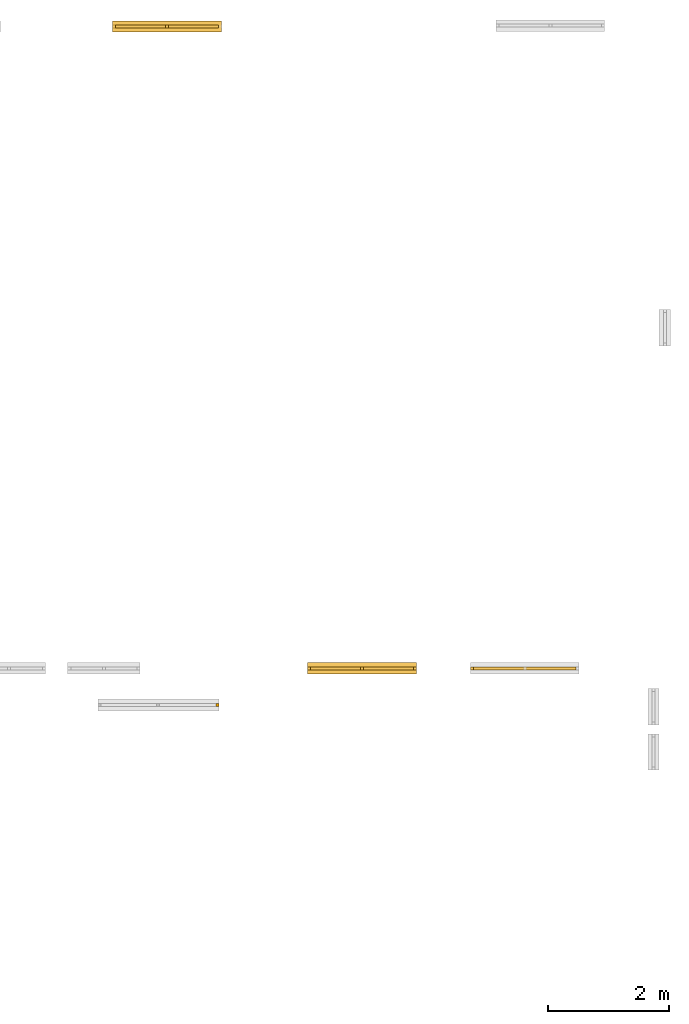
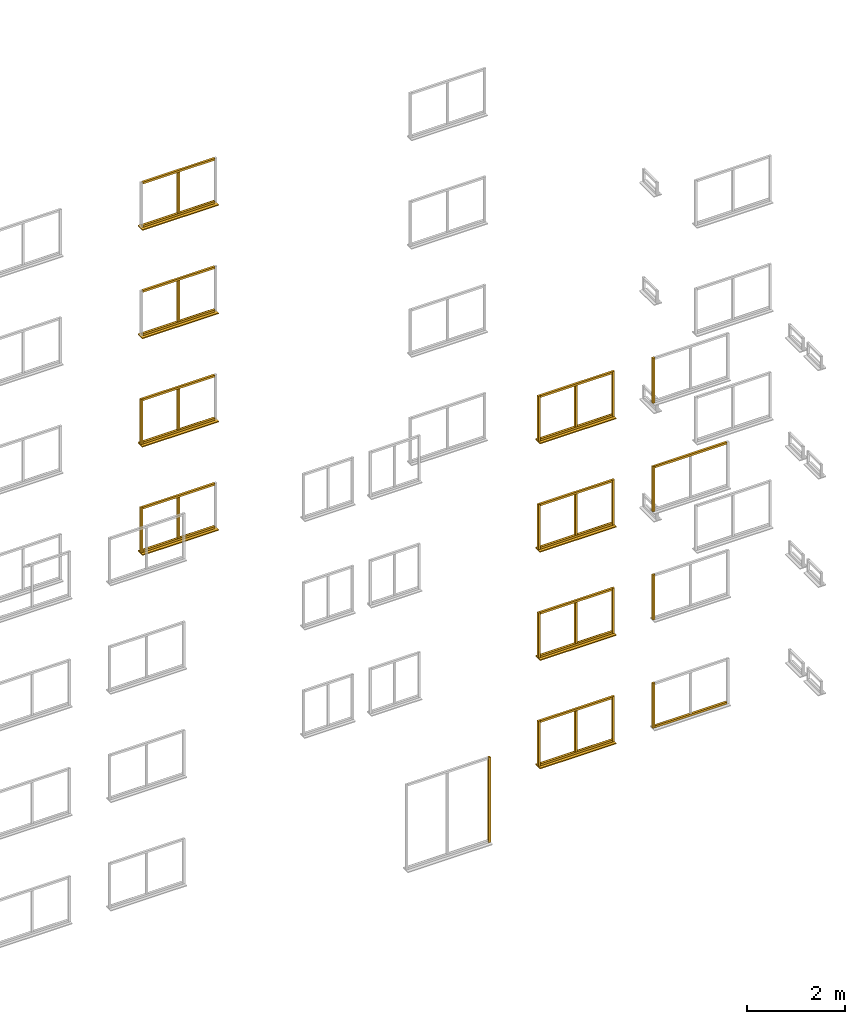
# Not in any storey, part 11 of 22: 49 windows.
"""IFC2X3 model written with IfcOpenShell, lengths in metres."""

import ifcopenshell
import ifcopenshell.guid

model = None  # the IFC model being written
_history = None  # IfcOwnerHistory: only IFC2X3 demands one
_inside = {}  # id of a spatial element -> (the spatial element, [elements in it])
_under = {}  # id of a project, library or spatial element -> (it, [spatial elements below it])
_declared = {}  # id of a project -> (the project, [libraries it declares])
_typed = {}  # id of a type object -> (the type object, [elements of that type])
_made_of = {}  # id of a material, layer set ... -> (it, [elements and type objects made of it])


def new_model(schema):
    """Start an empty IFC model of exactly this schema.

    Asked for "IFC4X3", IfcOpenShell would pick the latest addendum, in which some entities
    have other attributes; the version numbers below select the first issue.
    IFC2X3 requires an IfcOwnerHistory on every rooted entity: one is made here for all.
    """
    global model, _history
    if schema == "IFC4X3":
        model = ifcopenshell.file(schema_version=(4, 3, 0, 0))
    else:
        model = ifcopenshell.file(schema=schema)
    _inside.clear()
    _under.clear()
    _declared.clear()
    _typed.clear()
    _made_of.clear()
    _history = None
    if model.schema == "IFC2X3":
        org = make("IfcOrganization", Name="unknown")
        user = make(
            "IfcPersonAndOrganization",
            ThePerson=make("IfcPerson", FamilyName="unknown"),
            TheOrganization=org,
        )
        app = make(
            "IfcApplication",
            ApplicationDeveloper=org,
            Version="unknown",
            ApplicationFullName="unknown",
            ApplicationIdentifier="unknown",
        )
        _history = make(
            "IfcOwnerHistory",
            OwningUser=user,
            OwningApplication=app,
            ChangeAction="ADDED",
            CreationDate=0,
        )
    return model


def make(cls, **values):
    """One entity of the class cls with the attributes given. An attribute that is None is left unset."""
    return model.create_entity(
        cls, **{name: value for name, value in values.items() if value is not None}
    )


def rooted(cls, **values):
    """An entity with a GlobalId (a new one), such as an element, a storey or a relation."""
    return make(cls, GlobalId=ifcopenshell.guid.new(), OwnerHistory=_history, **values)


def si_unit(unit_type, name, prefix=None):
    """IfcSIUnit, for example si_unit("LENGTHUNIT", "METRE", prefix="MILLI")."""
    return make("IfcSIUnit", UnitType=unit_type, Prefix=prefix, Name=name)


def assignment(units):
    """IfcUnitAssignment: the units of a project."""
    return None if units is None else make("IfcUnitAssignment", Units=units)


def point(xyz):
    """IfcCartesianPoint."""
    return None if xyz is None else make("IfcCartesianPoint", Coordinates=xyz)


def direction(xyz):
    """IfcDirection."""
    return None if xyz is None else make("IfcDirection", DirectionRatios=xyz)


def frame(location, z_axis=None, x_axis=None):
    """IfcAxis2Placement3D, a coordinate frame: its origin and axes. An axis left out is left unset."""
    return make(
        "IfcAxis2Placement3D",
        Location=point(location),
        Axis=direction(z_axis),
        RefDirection=direction(x_axis),
    )


def origin():
    """The frame at (0, 0, 0) with its axes left unset."""
    return frame((0.0, 0.0, 0.0))


def place(relative_to, where):
    """IfcLocalPlacement: puts the frame where relative to a parent placement (None: the world)."""
    return make(
        "IfcLocalPlacement", PlacementRelTo=relative_to, RelativePlacement=where
    )


def context(
    kind, dimensions, precision=None, world=None, true_north=None, identifier=None
):
    """IfcGeometricRepresentationContext, for example the 3D "Model" context."""
    return make(
        "IfcGeometricRepresentationContext",
        ContextIdentifier=identifier,
        ContextType=kind,
        CoordinateSpaceDimension=dimensions,
        Precision=precision,
        WorldCoordinateSystem=world,
        TrueNorth=true_north,
    )


def project(units=None, contexts=None):
    """IfcProject with its units and contexts."""
    return rooted(
        "IfcProject",
        Name="project",
        RepresentationContexts=contexts,
        UnitsInContext=assignment(units),
    )


def faces_of(points, faces, orient=None, outer=None):
    """IfcFace entities. A face is a list of loops; a loop is a list of indices into points, from 0.

    orient and outer hold one flag for each loop. By default every Orientation is true, the
    first loop of a face is its IfcFaceOuterBound and the others are IfcFaceBound.
    """
    made = []
    for i, loops in enumerate(faces):
        bounds = []
        for j, loop in enumerate(loops):
            is_outer = j == 0 if outer is None else outer[i][j]
            bounds.append(
                make(
                    "IfcFaceOuterBound" if is_outer else "IfcFaceBound",
                    Bound=make("IfcPolyLoop", Polygon=[points[k] for k in loop]),
                    Orientation=True if orient is None else orient[i][j],
                )
            )
        made.append(make("IfcFace", Bounds=bounds))
    return made


def faceted_brep(points, faces, orient=None, outer=None, voids=None):
    """IfcFacetedBrep: a solid bounded by flat faces; with voids (closed shells), ...WithVoids."""
    shared = [point(p) for p in points]
    hull = make("IfcClosedShell", CfsFaces=faces_of(shared, faces, orient, outer))
    if voids is None:
        return make("IfcFacetedBrep", Outer=hull)
    return make(
        "IfcFacetedBrepWithVoids",
        Outer=hull,
        Voids=[
            make(cls, CfsFaces=faces_of(shared, fs, o, b)) for cls, fs, o, b in voids
        ],
    )


def shape(context_of_items, identifier, shape_type, items):
    """IfcShapeRepresentation: the items that make up one representation, for example the "Body"."""
    return make(
        "IfcShapeRepresentation",
        ContextOfItems=context_of_items,
        RepresentationIdentifier=identifier,
        RepresentationType=shape_type,
        Items=items,
    )


def made_of(thing, what):
    """Note that an element or type object is made of a material, layer set ...; save() writes the relation."""
    if what is not None:
        _made_of.setdefault(what.id(), (what, []))[1].append(thing)
    return thing


def element(
    cls,
    number,
    at=None,
    inside=None,
    cuts=None,
    type_object=None,
    material=None,
    context=None,
    identifier="Body",
    shape_type=None,
    held_by="IfcProductDefinitionShape",
    body=None,
    shapes=None,
    **own,
):
    """One element of the class cls, such as IfcWall. Its Tag is "e" and its number.

    at: its placement. inside: the storey or other place that contains it. cuts: it is an
    opening in that element (IfcRelVoidsElement). A single representation is given by context,
    identifier, shape_type and body (its items); several are given by shapes. held_by: the class
    of the entity that holds the representations. save() writes the other relations.
    """
    e = rooted(cls, Tag="e%d" % number, ObjectPlacement=at, **own)
    if body is not None:
        shapes = [shape(context, identifier, shape_type, body)]
    if shapes is not None:
        e.Representation = make(held_by, Representations=shapes)
    if inside is not None:
        _inside.setdefault(inside.id(), (inside, []))[1].append(e)
    if cuts is not None:
        rooted(
            "IfcRelVoidsElement", RelatingBuildingElement=cuts, RelatedOpeningElement=e
        )
    if type_object is not None:
        _typed.setdefault(type_object.id(), (type_object, []))[1].append(e)
    return made_of(e, material)


def aggregate(whole, parts):
    """IfcRelAggregates: a whole, such as a stair, and the parts it consists of."""
    return rooted("IfcRelAggregates", RelatingObject=whole, RelatedObjects=parts)


def save(model, path):
    """Write the relations noted so far, then the file.

    IfcRelAggregates (storeys below a building ...), IfcRelContainedInSpatialStructure (elements
    in a storey), IfcRelDefinesByType, IfcRelAssociatesMaterial and IfcRelDeclares: one each for
    every whole, place, type object, material and project.
    """
    for whole, parts in _under.values():
        aggregate(whole, parts)
    for where, things in _inside.values():
        rooted(
            "IfcRelContainedInSpatialStructure",
            RelatedElements=things,
            RelatingStructure=where,
        )
    for kind, things in _typed.values():
        rooted("IfcRelDefinesByType", RelatedObjects=things, RelatingType=kind)
    for what, things in _made_of.values():
        rooted("IfcRelAssociatesMaterial", RelatedObjects=things, RelatingMaterial=what)
    for by, libraries in _declared.values():
        rooted("IfcRelDeclares", RelatingContext=by, RelatedDefinitions=libraries)
    model.write(path)


model = new_model("IFC2X3")

# Units and contexts
model_context = context("Model", 3, precision=1e-06, world=origin())
ifc_project = project(units=[si_unit("LENGTHUNIT", "METRE"), si_unit("PLANEANGLEUNIT", "RADIAN")], contexts=[model_context])

# Windows
placement = place(None, origin())
for number, where, z_axis, x_axis, name in (
    (1, (36.62500054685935, -0.098251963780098, 7.5), (0.0, 0.0, 1.0), (1.0, 0.0, 0.0), "topFrame"),
    (2, (32.39499990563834, 10.588577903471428, 9.125000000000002), (0.0, 0.0, 1.0), (-1.0, 0.0, 0.0), "bottomFrame"),
):
    element("IfcWindow", number, at=place(placement, frame(where, z_axis=z_axis, x_axis=x_axis)), Name=name, context=model_context, shape_type="Brep", body=[
        faceted_brep([(0.0, 0.05, 0.0), (1.7, 0.05, 0.0), (1.7, 0.0, 0.0), (0.0, 0.0, 0.0), (1.7, 0.0, 0.05), (1.7, 0.05, 0.05), (0.0, 0.05, 0.05), (0.0, 0.0, 0.05), (0.0, 0.05, 0.0), (0.0, 0.0, 0.0), (0.0, 0.0, 0.05), (0.0, 0.05, 0.05), (1.7, 0.05, 0.0), (0.0, 0.05, 0.0), (0.0, 0.05, 0.05), (1.7, 0.05, 0.05), (1.7, 0.0, 0.0), (1.7, 0.05, 0.0), (1.7, 0.05, 0.05), (1.7, 0.0, 0.05), (0.0, 0.0, 0.0), (1.7, 0.0, 0.0), (1.7, 0.0, 0.05), (0.0, 0.0, 0.05)], [[[0, 1, 2, 3]], [[4, 5, 6, 7]], [[8, 9, 10, 11]], [[12, 13, 14, 15]], [[16, 17, 18, 19]], [[20, 21, 22, 23]]]),
    ])
window_1_placement = place(placement, frame((32.44499990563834, 10.657077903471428, 9.100000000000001), z_axis=(0.0, 0.0, 1.0), x_axis=(-1.0, 0.0, 0.0)))
element("IfcWindow", 3, at=window_1_placement, Name="windowSill", context=model_context, shape_type="Brep", body=[
    faceted_brep([(0.0, 0.187, 0.0), (1.8, 0.187, 0.0), (1.8, 0.0, 0.0), (0.0, 0.0, 0.0), (1.8, 0.0, 0.025), (1.8, 0.187, 0.025), (0.0, 0.187, 0.025), (0.0, 0.0, 0.025), (0.0, 0.187, 0.0), (0.0, 0.0, 0.0), (0.0, 0.0, 0.025), (0.0, 0.187, 0.025), (1.8, 0.187, 0.0), (0.0, 0.187, 0.0), (0.0, 0.187, 0.025), (1.8, 0.187, 0.025), (1.8, 0.0, 0.0), (1.8, 0.187, 0.0), (1.8, 0.187, 0.025), (1.8, 0.0, 0.025), (0.0, 0.0, 0.0), (1.8, 0.0, 0.0), (1.8, 0.0, 0.025), (0.0, 0.0, 0.025)], [[[0, 1, 2, 3]], [[4, 5, 6, 7]], [[8, 9, 10, 11]], [[12, 13, 14, 15]], [[16, 17, 18, 19]], [[20, 21, 22, 23]]]),
])
window_2_placement = place(placement, frame((32.39499990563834, 10.588577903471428, 10.200000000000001), z_axis=(0.0, 0.0, 1.0), x_axis=(-1.0, 0.0, 0.0)))
element("IfcWindow", 4, at=window_2_placement, Name="topFrame", context=model_context, shape_type="Brep", body=[
    faceted_brep([(0.0, 0.05, 0.0), (1.7, 0.05, 0.0), (1.7, 0.0, 0.0), (0.0, 0.0, 0.0), (1.7, 0.0, 0.05), (1.7, 0.05, 0.05), (0.0, 0.05, 0.05), (0.0, 0.0, 0.05), (0.0, 0.05, 0.0), (0.0, 0.0, 0.0), (0.0, 0.0, 0.05), (0.0, 0.05, 0.05), (1.7, 0.05, 0.0), (0.0, 0.05, 0.0), (0.0, 0.05, 0.05), (1.7, 0.05, 0.05), (1.7, 0.0, 0.0), (1.7, 0.05, 0.0), (1.7, 0.05, 0.05), (1.7, 0.0, 0.05), (0.0, 0.0, 0.0), (1.7, 0.0, 0.0), (1.7, 0.0, 0.05), (0.0, 0.0, 0.05)], [[[0, 1, 2, 3]], [[4, 5, 6, 7]], [[8, 9, 10, 11]], [[12, 13, 14, 15]], [[16, 17, 18, 19]], [[20, 21, 22, 23]]]),
])
for number, where, z_axis, x_axis, name in (
    (5, (31.56999990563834, 10.588577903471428, 9.175), (0.0, 0.0, 1.0), (-1.0, 0.0, 0.0), "verticalBar"),
    (6, (31.56999990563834, 10.588577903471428, 6.475000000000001), (0.0, 0.0, 1.0), (-1.0, 0.0, 0.0), "verticalBar"),
):
    element("IfcWindow", number, at=place(placement, frame(where, z_axis=z_axis, x_axis=x_axis)), Name=name, context=model_context, shape_type="Brep", body=[
        faceted_brep([(0.0, 0.05, 0.0), (0.05, 0.05, 0.0), (0.05, 0.0, 0.0), (0.0, 0.0, 0.0), (0.05, 0.0, 1.025), (0.05, 0.05, 1.025), (0.0, 0.05, 1.025), (0.0, 0.0, 1.025), (0.0, 0.05, 0.0), (0.0, 0.0, 0.0), (0.0, 0.0, 1.025), (0.0, 0.05, 1.025), (0.05, 0.05, 0.0), (0.0, 0.05, 0.0), (0.0, 0.05, 1.025), (0.05, 0.05, 1.025), (0.05, 0.0, 0.0), (0.05, 0.05, 0.0), (0.05, 0.05, 1.025), (0.05, 0.0, 1.025), (0.0, 0.0, 0.0), (0.05, 0.0, 0.0), (0.05, 0.0, 1.025), (0.0, 0.0, 1.025)], [[[0, 1, 2, 3]], [[4, 5, 6, 7]], [[8, 9, 10, 11]], [[12, 13, 14, 15]], [[16, 17, 18, 19]], [[20, 21, 22, 23]]]),
    ])
window_3_placement = place(placement, frame((32.39499990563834, 10.588577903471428, 7.5), z_axis=(0.0, 0.0, 1.0), x_axis=(-1.0, 0.0, 0.0)))
element("IfcWindow", 7, at=window_3_placement, Name="topFrame", context=model_context, shape_type="Brep", body=[
    faceted_brep([(0.0, 0.05, 0.0), (1.7, 0.05, 0.0), (1.7, 0.0, 0.0), (0.0, 0.0, 0.0), (1.7, 0.0, 0.05), (1.7, 0.05, 0.05), (0.0, 0.05, 0.05), (0.0, 0.0, 0.05), (0.0, 0.05, 0.0), (0.0, 0.0, 0.0), (0.0, 0.0, 0.05), (0.0, 0.05, 0.05), (1.7, 0.05, 0.0), (0.0, 0.05, 0.0), (0.0, 0.05, 0.05), (1.7, 0.05, 0.05), (1.7, 0.0, 0.0), (1.7, 0.05, 0.0), (1.7, 0.05, 0.05), (1.7, 0.0, 0.05), (0.0, 0.0, 0.0), (1.7, 0.0, 0.0), (1.7, 0.0, 0.05), (0.0, 0.0, 0.05)], [[[0, 1, 2, 3]], [[4, 5, 6, 7]], [[8, 9, 10, 11]], [[12, 13, 14, 15]], [[16, 17, 18, 19]], [[20, 21, 22, 23]]]),
])
window_4_placement = place(placement, frame((32.44499990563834, 10.657077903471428, 6.4), z_axis=(0.0, 0.0, 1.0), x_axis=(-1.0, 0.0, 0.0)))
element("IfcWindow", 8, at=window_4_placement, Name="windowSill", context=model_context, shape_type="Brep", body=[
    faceted_brep([(0.0, 0.187, 0.0), (1.8, 0.187, 0.0), (1.8, 0.0, 0.0), (0.0, 0.0, 0.0), (1.8, 0.0, 0.025), (1.8, 0.187, 0.025), (0.0, 0.187, 0.025), (0.0, 0.0, 0.025), (0.0, 0.187, 0.0), (0.0, 0.0, 0.0), (0.0, 0.0, 0.025), (0.0, 0.187, 0.025), (1.8, 0.187, 0.0), (0.0, 0.187, 0.0), (0.0, 0.187, 0.025), (1.8, 0.187, 0.025), (1.8, 0.0, 0.0), (1.8, 0.187, 0.0), (1.8, 0.187, 0.025), (1.8, 0.0, 0.025), (0.0, 0.0, 0.0), (1.8, 0.0, 0.0), (1.8, 0.0, 0.025), (0.0, 0.0, 0.025)], [[[0, 1, 2, 3]], [[4, 5, 6, 7]], [[8, 9, 10, 11]], [[12, 13, 14, 15]], [[16, 17, 18, 19]], [[20, 21, 22, 23]]]),
])
window_5_placement = place(placement, frame((32.39499990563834, 10.588577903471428, 6.425000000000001), z_axis=(0.0, 0.0, 1.0), x_axis=(-1.0, 0.0, 0.0)))
element("IfcWindow", 9, at=window_5_placement, Name="bottomFrame", context=model_context, shape_type="Brep", body=[
    faceted_brep([(0.0, 0.05, 0.0), (1.7, 0.05, 0.0), (1.7, 0.0, 0.0), (0.0, 0.0, 0.0), (1.7, 0.0, 0.05), (1.7, 0.05, 0.05), (0.0, 0.05, 0.05), (0.0, 0.0, 0.05), (0.0, 0.05, 0.0), (0.0, 0.0, 0.0), (0.0, 0.0, 0.05), (0.0, 0.05, 0.05), (1.7, 0.05, 0.0), (0.0, 0.05, 0.0), (0.0, 0.05, 0.05), (1.7, 0.05, 0.05), (1.7, 0.0, 0.0), (1.7, 0.05, 0.0), (1.7, 0.05, 0.05), (1.7, 0.0, 0.05), (0.0, 0.0, 0.0), (1.7, 0.0, 0.0), (1.7, 0.0, 0.05), (0.0, 0.0, 0.05)], [[[0, 1, 2, 3]], [[4, 5, 6, 7]], [[8, 9, 10, 11]], [[12, 13, 14, 15]], [[16, 17, 18, 19]], [[20, 21, 22, 23]]]),
])
window_6_placement = place(placement, frame((30.69499990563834, 10.588577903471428, 3.725), z_axis=(0.0, 0.0, 1.0), x_axis=(-1.0, 0.0, 0.0)))
element("IfcWindow", 10, at=window_6_placement, Name="rightFrame", context=model_context, shape_type="Brep", body=[
    faceted_brep([(0.0, 0.05, 0.0), (0.05, 0.05, 0.0), (0.05, 0.0, 0.0), (0.0, 0.0, 0.0), (0.05, 0.0, 1.125), (0.05, 0.05, 1.125), (0.0, 0.05, 1.125), (0.0, 0.0, 1.125), (0.0, 0.05, 0.0), (0.0, 0.0, 0.0), (0.0, 0.0, 1.125), (0.0, 0.05, 1.125), (0.05, 0.05, 0.0), (0.0, 0.05, 0.0), (0.0, 0.05, 1.125), (0.05, 0.05, 1.125), (0.05, 0.0, 0.0), (0.05, 0.05, 0.0), (0.05, 0.05, 1.125), (0.05, 0.0, 1.125), (0.0, 0.0, 0.0), (0.05, 0.0, 0.0), (0.05, 0.0, 1.125), (0.0, 0.0, 1.125)], [[[0, 1, 2, 3]], [[4, 5, 6, 7]], [[8, 9, 10, 11]], [[12, 13, 14, 15]], [[16, 17, 18, 19]], [[20, 21, 22, 23]]]),
])
window_7_placement = place(placement, frame((32.44499990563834, 10.657077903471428, 3.7), z_axis=(0.0, 0.0, 1.0), x_axis=(-1.0, 0.0, 0.0)))
element("IfcWindow", 11, at=window_7_placement, Name="windowSill", context=model_context, shape_type="Brep", body=[
    faceted_brep([(0.0, 0.187, 0.0), (1.8, 0.187, 0.0), (1.8, 0.0, 0.0), (0.0, 0.0, 0.0), (1.8, 0.0, 0.025), (1.8, 0.187, 0.025), (0.0, 0.187, 0.025), (0.0, 0.0, 0.025), (0.0, 0.187, 0.0), (0.0, 0.0, 0.0), (0.0, 0.0, 0.025), (0.0, 0.187, 0.025), (1.8, 0.187, 0.0), (0.0, 0.187, 0.0), (0.0, 0.187, 0.025), (1.8, 0.187, 0.025), (1.8, 0.0, 0.0), (1.8, 0.187, 0.0), (1.8, 0.187, 0.025), (1.8, 0.0, 0.025), (0.0, 0.0, 0.0), (1.8, 0.0, 0.0), (1.8, 0.0, 0.025), (0.0, 0.0, 0.025)], [[[0, 1, 2, 3]], [[4, 5, 6, 7]], [[8, 9, 10, 11]], [[12, 13, 14, 15]], [[16, 17, 18, 19]], [[20, 21, 22, 23]]]),
])
window_8_placement = place(placement, frame((32.39499990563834, 10.588577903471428, 4.8), z_axis=(0.0, 0.0, 1.0), x_axis=(-1.0, 0.0, 0.0)))
element("IfcWindow", 12, at=window_8_placement, Name="topFrame", context=model_context, shape_type="Brep", body=[
    faceted_brep([(0.0, 0.05, 0.0), (1.7, 0.05, 0.0), (1.7, 0.0, 0.0), (0.0, 0.0, 0.0), (1.7, 0.0, 0.05), (1.7, 0.05, 0.05), (0.0, 0.05, 0.05), (0.0, 0.0, 0.05), (0.0, 0.05, 0.0), (0.0, 0.0, 0.0), (0.0, 0.0, 0.05), (0.0, 0.05, 0.05), (1.7, 0.05, 0.0), (0.0, 0.05, 0.0), (0.0, 0.05, 0.05), (1.7, 0.05, 0.05), (1.7, 0.0, 0.0), (1.7, 0.05, 0.0), (1.7, 0.05, 0.05), (1.7, 0.0, 0.05), (0.0, 0.0, 0.0), (1.7, 0.0, 0.0), (1.7, 0.0, 0.05), (0.0, 0.0, 0.05)], [[[0, 1, 2, 3]], [[4, 5, 6, 7]], [[8, 9, 10, 11]], [[12, 13, 14, 15]], [[16, 17, 18, 19]], [[20, 21, 22, 23]]]),
])
window_9_placement = place(placement, frame((31.56999990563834, 10.588577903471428, 3.775), z_axis=(0.0, 0.0, 1.0), x_axis=(-1.0, 0.0, 0.0)))
element("IfcWindow", 13, at=window_9_placement, Name="verticalBar", context=model_context, shape_type="Brep", body=[
    faceted_brep([(0.0, 0.05, 0.0), (0.05, 0.05, 0.0), (0.05, 0.0, 0.0), (0.0, 0.0, 0.0), (0.05, 0.0, 1.025), (0.05, 0.05, 1.025), (0.0, 0.05, 1.025), (0.0, 0.0, 1.025), (0.0, 0.05, 0.0), (0.0, 0.0, 0.0), (0.0, 0.0, 1.025), (0.0, 0.05, 1.025), (0.05, 0.05, 0.0), (0.0, 0.05, 0.0), (0.0, 0.05, 1.025), (0.05, 0.05, 1.025), (0.05, 0.0, 0.0), (0.05, 0.05, 0.0), (0.05, 0.05, 1.025), (0.05, 0.0, 1.025), (0.0, 0.0, 0.0), (0.05, 0.0, 0.0), (0.05, 0.0, 1.025), (0.0, 0.0, 1.025)], [[[0, 1, 2, 3]], [[4, 5, 6, 7]], [[8, 9, 10, 11]], [[12, 13, 14, 15]], [[16, 17, 18, 19]], [[20, 21, 22, 23]]]),
])
for number, where, z_axis, x_axis, name in (
    (14, (36.62500054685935, -0.098251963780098, 1.025), (0.0, 0.0, 1.0), (1.0, 0.0, 0.0), "bottomFrame"),
    (15, (32.39499990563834, 10.588577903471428, 3.725), (0.0, 0.0, 1.0), (-1.0, 0.0, 0.0), "bottomFrame"),
):
    element("IfcWindow", number, at=place(placement, frame(where, z_axis=z_axis, x_axis=x_axis)), Name=name, context=model_context, shape_type="Brep", body=[
        faceted_brep([(0.0, 0.05, 0.0), (1.7, 0.05, 0.0), (1.7, 0.0, 0.0), (0.0, 0.0, 0.0), (1.7, 0.0, 0.05), (1.7, 0.05, 0.05), (0.0, 0.05, 0.05), (0.0, 0.0, 0.05), (0.0, 0.05, 0.0), (0.0, 0.0, 0.0), (0.0, 0.0, 0.05), (0.0, 0.05, 0.05), (1.7, 0.05, 0.0), (0.0, 0.05, 0.0), (0.0, 0.05, 0.05), (1.7, 0.05, 0.05), (1.7, 0.0, 0.0), (1.7, 0.05, 0.0), (1.7, 0.05, 0.05), (1.7, 0.0, 0.05), (0.0, 0.0, 0.0), (1.7, 0.0, 0.0), (1.7, 0.0, 0.05), (0.0, 0.0, 0.05)], [[[0, 1, 2, 3]], [[4, 5, 6, 7]], [[8, 9, 10, 11]], [[12, 13, 14, 15]], [[16, 17, 18, 19]], [[20, 21, 22, 23]]]),
    ])
window_10_placement = place(placement, frame((31.56999990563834, 10.588577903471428, 1.075), z_axis=(0.0, 0.0, 1.0), x_axis=(-1.0, 0.0, 0.0)))
element("IfcWindow", 16, at=window_10_placement, Name="verticalBar", context=model_context, shape_type="Brep", body=[
    faceted_brep([(0.0, 0.05, 0.0), (0.05, 0.05, 0.0), (0.05, 0.0, 0.0), (0.0, 0.0, 0.0), (0.05, 0.0, 1.025), (0.05, 0.05, 1.025), (0.0, 0.05, 1.025), (0.0, 0.0, 1.025), (0.0, 0.05, 0.0), (0.0, 0.0, 0.0), (0.0, 0.0, 1.025), (0.0, 0.05, 1.025), (0.05, 0.05, 0.0), (0.0, 0.05, 0.0), (0.0, 0.05, 1.025), (0.05, 0.05, 1.025), (0.05, 0.0, 0.0), (0.05, 0.05, 0.0), (0.05, 0.05, 1.025), (0.05, 0.0, 1.025), (0.0, 0.0, 0.0), (0.05, 0.0, 0.0), (0.05, 0.0, 1.025), (0.0, 0.0, 1.025)], [[[0, 1, 2, 3]], [[4, 5, 6, 7]], [[8, 9, 10, 11]], [[12, 13, 14, 15]], [[16, 17, 18, 19]], [[20, 21, 22, 23]]]),
])
window_11_placement = place(placement, frame((32.44499990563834, 10.657077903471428, 1.0), z_axis=(0.0, 0.0, 1.0), x_axis=(-1.0, 0.0, 0.0)))
element("IfcWindow", 17, at=window_11_placement, Name="windowSill", context=model_context, shape_type="Brep", body=[
    faceted_brep([(0.0, 0.187, 0.0), (1.8, 0.187, 0.0), (1.8, 0.0, 0.0), (0.0, 0.0, 0.0), (1.8, 0.0, 0.025), (1.8, 0.187, 0.025), (0.0, 0.187, 0.025), (0.0, 0.0, 0.025), (0.0, 0.187, 0.0), (0.0, 0.0, 0.0), (0.0, 0.0, 0.025), (0.0, 0.187, 0.025), (1.8, 0.187, 0.0), (0.0, 0.187, 0.0), (0.0, 0.187, 0.025), (1.8, 0.187, 0.025), (1.8, 0.0, 0.0), (1.8, 0.187, 0.0), (1.8, 0.187, 0.025), (1.8, 0.0, 0.025), (0.0, 0.0, 0.0), (1.8, 0.0, 0.0), (1.8, 0.0, 0.025), (0.0, 0.0, 0.025)], [[[0, 1, 2, 3]], [[4, 5, 6, 7]], [[8, 9, 10, 11]], [[12, 13, 14, 15]], [[16, 17, 18, 19]], [[20, 21, 22, 23]]]),
])
window_12_placement = place(placement, frame((30.69499990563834, 10.588577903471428, 1.025), z_axis=(0.0, 0.0, 1.0), x_axis=(-1.0, 0.0, 0.0)))
element("IfcWindow", 18, at=window_12_placement, Name="rightFrame", context=model_context, shape_type="Brep", body=[
    faceted_brep([(0.0, 0.05, 0.0), (0.05, 0.05, 0.0), (0.05, 0.0, 0.0), (0.0, 0.0, 0.0), (0.05, 0.0, 1.125), (0.05, 0.05, 1.125), (0.0, 0.05, 1.125), (0.0, 0.0, 1.125), (0.0, 0.05, 0.0), (0.0, 0.0, 0.0), (0.0, 0.0, 1.125), (0.0, 0.05, 1.125), (0.05, 0.05, 0.0), (0.0, 0.05, 0.0), (0.0, 0.05, 1.125), (0.05, 0.05, 1.125), (0.05, 0.0, 0.0), (0.05, 0.05, 0.0), (0.05, 0.05, 1.125), (0.05, 0.0, 1.125), (0.0, 0.0, 0.0), (0.05, 0.0, 0.0), (0.05, 0.0, 1.125), (0.0, 0.0, 1.125)], [[[0, 1, 2, 3]], [[4, 5, 6, 7]], [[8, 9, 10, 11]], [[12, 13, 14, 15]], [[16, 17, 18, 19]], [[20, 21, 22, 23]]]),
])
for number, where, z_axis, x_axis, name in (
    (19, (32.39499990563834, 10.588577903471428, 2.1), (0.0, 0.0, 1.0), (-1.0, 0.0, 0.0), "topFrame"),
    (20, (32.39499990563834, 10.588577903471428, 1.025), (0.0, 0.0, 1.0), (-1.0, 0.0, 0.0), "bottomFrame"),
):
    element("IfcWindow", number, at=place(placement, frame(where, z_axis=z_axis, x_axis=x_axis)), Name=name, context=model_context, shape_type="Brep", body=[
        faceted_brep([(0.0, 0.05, 0.0), (1.7, 0.05, 0.0), (1.7, 0.0, 0.0), (0.0, 0.0, 0.0), (1.7, 0.0, 0.05), (1.7, 0.05, 0.05), (0.0, 0.05, 0.05), (0.0, 0.0, 0.05), (0.0, 0.05, 0.0), (0.0, 0.0, 0.0), (0.0, 0.0, 0.05), (0.0, 0.05, 0.05), (1.7, 0.05, 0.0), (0.0, 0.05, 0.0), (0.0, 0.05, 0.05), (1.7, 0.05, 0.05), (1.7, 0.0, 0.0), (1.7, 0.05, 0.0), (1.7, 0.05, 0.05), (1.7, 0.0, 0.05), (0.0, 0.0, 0.0), (1.7, 0.0, 0.0), (1.7, 0.0, 0.05), (0.0, 0.0, 0.05)], [[[0, 1, 2, 3]], [[4, 5, 6, 7]], [[8, 9, 10, 11]], [[12, 13, 14, 15]], [[16, 17, 18, 19]], [[20, 21, 22, 23]]]),
    ])
window_13_placement = place(placement, frame((33.875000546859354, -0.098251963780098, 1.025), z_axis=(0.0, 0.0, 1.0), x_axis=(1.0, 0.0, 0.0)))
element("IfcWindow", 21, at=window_13_placement, Name="leftFrame", context=model_context, shape_type="Brep", body=[
    faceted_brep([(0.0, 0.05, 0.0), (0.05, 0.05, 0.0), (0.05, 0.0, 0.0), (0.0, 0.0, 0.0), (0.05, 0.0, 1.125), (0.05, 0.05, 1.125), (0.0, 0.05, 1.125), (0.0, 0.0, 1.125), (0.0, 0.05, 0.0), (0.0, 0.0, 0.0), (0.0, 0.0, 1.125), (0.0, 0.05, 1.125), (0.05, 0.05, 0.0), (0.0, 0.05, 0.0), (0.0, 0.05, 1.125), (0.05, 0.05, 1.125), (0.05, 0.0, 0.0), (0.05, 0.05, 0.0), (0.05, 0.05, 1.125), (0.05, 0.0, 1.125), (0.0, 0.0, 0.0), (0.05, 0.0, 0.0), (0.05, 0.0, 1.125), (0.0, 0.0, 1.125)], [[[0, 1, 2, 3]], [[4, 5, 6, 7]], [[8, 9, 10, 11]], [[12, 13, 14, 15]], [[16, 17, 18, 19]], [[20, 21, 22, 23]]]),
])
window_14_placement = place(placement, frame((33.875000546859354, -0.166751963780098, 3.7), z_axis=(0.0, 0.0, 1.0), x_axis=(1.0, 0.0, 0.0)))
element("IfcWindow", 22, at=window_14_placement, Name="windowSill", context=model_context, shape_type="Brep", body=[
    faceted_brep([(0.0, 0.187, 0.0), (1.8, 0.187, 0.0), (1.8, 0.0, 0.0), (0.0, 0.0, 0.0), (1.8, 0.0, 0.025), (1.8, 0.187, 0.025), (0.0, 0.187, 0.025), (0.0, 0.0, 0.025), (0.0, 0.187, 0.0), (0.0, 0.0, 0.0), (0.0, 0.0, 0.025), (0.0, 0.187, 0.025), (1.8, 0.187, 0.0), (0.0, 0.187, 0.0), (0.0, 0.187, 0.025), (1.8, 0.187, 0.025), (1.8, 0.0, 0.0), (1.8, 0.187, 0.0), (1.8, 0.187, 0.025), (1.8, 0.0, 0.025), (0.0, 0.0, 0.0), (1.8, 0.0, 0.0), (1.8, 0.0, 0.025), (0.0, 0.0, 0.025)], [[[0, 1, 2, 3]], [[4, 5, 6, 7]], [[8, 9, 10, 11]], [[12, 13, 14, 15]], [[16, 17, 18, 19]], [[20, 21, 22, 23]]]),
])
window_15_placement = place(placement, frame((33.92500054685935, -0.098251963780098, 3.725), z_axis=(0.0, 0.0, 1.0), x_axis=(1.0, 0.0, 0.0)))
element("IfcWindow", 23, at=window_15_placement, Name="bottomFrame", context=model_context, shape_type="Brep", body=[
    faceted_brep([(0.0, 0.05, 0.0), (1.7, 0.05, 0.0), (1.7, 0.0, 0.0), (0.0, 0.0, 0.0), (1.7, 0.0, 0.05), (1.7, 0.05, 0.05), (0.0, 0.05, 0.05), (0.0, 0.0, 0.05), (0.0, 0.05, 0.0), (0.0, 0.0, 0.0), (0.0, 0.0, 0.05), (0.0, 0.05, 0.05), (1.7, 0.05, 0.0), (0.0, 0.05, 0.0), (0.0, 0.05, 0.05), (1.7, 0.05, 0.05), (1.7, 0.0, 0.0), (1.7, 0.05, 0.0), (1.7, 0.05, 0.05), (1.7, 0.0, 0.05), (0.0, 0.0, 0.0), (1.7, 0.0, 0.0), (1.7, 0.0, 0.05), (0.0, 0.0, 0.05)], [[[0, 1, 2, 3]], [[4, 5, 6, 7]], [[8, 9, 10, 11]], [[12, 13, 14, 15]], [[16, 17, 18, 19]], [[20, 21, 22, 23]]]),
])
window_16_placement = place(placement, frame((34.750000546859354, -0.098251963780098, 3.775), z_axis=(0.0, 0.0, 1.0), x_axis=(1.0, 0.0, 0.0)))
element("IfcWindow", 24, at=window_16_placement, Name="verticalBar", context=model_context, shape_type="Brep", body=[
    faceted_brep([(0.0, 0.05, 0.0), (0.05, 0.05, 0.0), (0.05, 0.0, 0.0), (0.0, 0.0, 0.0), (0.05, 0.0, 1.025), (0.05, 0.05, 1.025), (0.0, 0.05, 1.025), (0.0, 0.0, 1.025), (0.0, 0.05, 0.0), (0.0, 0.0, 0.0), (0.0, 0.0, 1.025), (0.0, 0.05, 1.025), (0.05, 0.05, 0.0), (0.0, 0.05, 0.0), (0.0, 0.05, 1.025), (0.05, 0.05, 1.025), (0.05, 0.0, 0.0), (0.05, 0.05, 0.0), (0.05, 0.05, 1.025), (0.05, 0.0, 1.025), (0.0, 0.0, 0.0), (0.05, 0.0, 0.0), (0.05, 0.0, 1.025), (0.0, 0.0, 1.025)], [[[0, 1, 2, 3]], [[4, 5, 6, 7]], [[8, 9, 10, 11]], [[12, 13, 14, 15]], [[16, 17, 18, 19]], [[20, 21, 22, 23]]]),
])
window_17_placement = place(placement, frame((33.92500054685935, -0.098251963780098, 4.8), z_axis=(0.0, 0.0, 1.0), x_axis=(1.0, 0.0, 0.0)))
element("IfcWindow", 25, at=window_17_placement, Name="topFrame", context=model_context, shape_type="Brep", body=[
    faceted_brep([(0.0, 0.05, 0.0), (1.7, 0.05, 0.0), (1.7, 0.0, 0.0), (0.0, 0.0, 0.0), (1.7, 0.0, 0.05), (1.7, 0.05, 0.05), (0.0, 0.05, 0.05), (0.0, 0.0, 0.05), (0.0, 0.05, 0.0), (0.0, 0.0, 0.0), (0.0, 0.0, 0.05), (0.0, 0.05, 0.05), (1.7, 0.05, 0.0), (0.0, 0.05, 0.0), (0.0, 0.05, 0.05), (1.7, 0.05, 0.05), (1.7, 0.0, 0.0), (1.7, 0.05, 0.0), (1.7, 0.05, 0.05), (1.7, 0.0, 0.05), (0.0, 0.0, 0.0), (1.7, 0.0, 0.0), (1.7, 0.0, 0.05), (0.0, 0.0, 0.05)], [[[0, 1, 2, 3]], [[4, 5, 6, 7]], [[8, 9, 10, 11]], [[12, 13, 14, 15]], [[16, 17, 18, 19]], [[20, 21, 22, 23]]]),
])
window_18_placement = place(placement, frame((34.750000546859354, -0.098251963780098, 1.075), z_axis=(0.0, 0.0, 1.0), x_axis=(1.0, 0.0, 0.0)))
element("IfcWindow", 26, at=window_18_placement, Name="verticalBar", context=model_context, shape_type="Brep", body=[
    faceted_brep([(0.0, 0.05, 0.0), (0.05, 0.05, 0.0), (0.05, 0.0, 0.0), (0.0, 0.0, 0.0), (0.05, 0.0, 1.025), (0.05, 0.05, 1.025), (0.0, 0.05, 1.025), (0.0, 0.0, 1.025), (0.0, 0.05, 0.0), (0.0, 0.0, 0.0), (0.0, 0.0, 1.025), (0.0, 0.05, 1.025), (0.05, 0.05, 0.0), (0.0, 0.05, 0.0), (0.0, 0.05, 1.025), (0.05, 0.05, 1.025), (0.05, 0.0, 0.0), (0.05, 0.05, 0.0), (0.05, 0.05, 1.025), (0.05, 0.0, 1.025), (0.0, 0.0, 0.0), (0.05, 0.0, 0.0), (0.05, 0.0, 1.025), (0.0, 0.0, 1.025)], [[[0, 1, 2, 3]], [[4, 5, 6, 7]], [[8, 9, 10, 11]], [[12, 13, 14, 15]], [[16, 17, 18, 19]], [[20, 21, 22, 23]]]),
])
window_19_placement = place(placement, frame((35.625000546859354, -0.098251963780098, 1.025), z_axis=(0.0, 0.0, 1.0), x_axis=(1.0, 0.0, 0.0)))
element("IfcWindow", 27, at=window_19_placement, Name="rightFrame", context=model_context, shape_type="Brep", body=[
    faceted_brep([(0.0, 0.05, 0.0), (0.05, 0.05, 0.0), (0.05, 0.0, 0.0), (0.0, 0.0, 0.0), (0.05, 0.0, 1.125), (0.05, 0.05, 1.125), (0.0, 0.05, 1.125), (0.0, 0.0, 1.125), (0.0, 0.05, 0.0), (0.0, 0.0, 0.0), (0.0, 0.0, 1.125), (0.0, 0.05, 1.125), (0.05, 0.05, 0.0), (0.0, 0.05, 0.0), (0.0, 0.05, 1.125), (0.05, 0.05, 1.125), (0.05, 0.0, 0.0), (0.05, 0.05, 0.0), (0.05, 0.05, 1.125), (0.05, 0.0, 1.125), (0.0, 0.0, 0.0), (0.05, 0.0, 0.0), (0.05, 0.0, 1.125), (0.0, 0.0, 1.125)], [[[0, 1, 2, 3]], [[4, 5, 6, 7]], [[8, 9, 10, 11]], [[12, 13, 14, 15]], [[16, 17, 18, 19]], [[20, 21, 22, 23]]]),
])
for number, where, z_axis, x_axis, name in (
    (28, (33.92500054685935, -0.098251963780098, 1.025), (0.0, 0.0, 1.0), (1.0, 0.0, 0.0), "bottomFrame"),
    (29, (33.92500054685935, -0.098251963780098, 7.5), (0.0, 0.0, 1.0), (1.0, 0.0, 0.0), "topFrame"),
):
    element("IfcWindow", number, at=place(placement, frame(where, z_axis=z_axis, x_axis=x_axis)), Name=name, context=model_context, shape_type="Brep", body=[
        faceted_brep([(0.0, 0.05, 0.0), (1.7, 0.05, 0.0), (1.7, 0.0, 0.0), (0.0, 0.0, 0.0), (1.7, 0.0, 0.05), (1.7, 0.05, 0.05), (0.0, 0.05, 0.05), (0.0, 0.0, 0.05), (0.0, 0.05, 0.0), (0.0, 0.0, 0.0), (0.0, 0.0, 0.05), (0.0, 0.05, 0.05), (1.7, 0.05, 0.0), (0.0, 0.05, 0.0), (0.0, 0.05, 0.05), (1.7, 0.05, 0.05), (1.7, 0.0, 0.0), (1.7, 0.05, 0.0), (1.7, 0.05, 0.05), (1.7, 0.0, 0.05), (0.0, 0.0, 0.0), (1.7, 0.0, 0.0), (1.7, 0.0, 0.05), (0.0, 0.0, 0.05)], [[[0, 1, 2, 3]], [[4, 5, 6, 7]], [[8, 9, 10, 11]], [[12, 13, 14, 15]], [[16, 17, 18, 19]], [[20, 21, 22, 23]]]),
    ])
window_20_placement = place(placement, frame((34.750000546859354, -0.098251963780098, 6.475000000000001), z_axis=(0.0, 0.0, 1.0), x_axis=(1.0, 0.0, 0.0)))
element("IfcWindow", 30, at=window_20_placement, Name="verticalBar", context=model_context, shape_type="Brep", body=[
    faceted_brep([(0.0, 0.05, 0.0), (0.05, 0.05, 0.0), (0.05, 0.0, 0.0), (0.0, 0.0, 0.0), (0.05, 0.0, 1.025), (0.05, 0.05, 1.025), (0.0, 0.05, 1.025), (0.0, 0.0, 1.025), (0.0, 0.05, 0.0), (0.0, 0.0, 0.0), (0.0, 0.0, 1.025), (0.0, 0.05, 1.025), (0.05, 0.05, 0.0), (0.0, 0.05, 0.0), (0.0, 0.05, 1.025), (0.05, 0.05, 1.025), (0.05, 0.0, 0.0), (0.05, 0.05, 0.0), (0.05, 0.05, 1.025), (0.05, 0.0, 1.025), (0.0, 0.0, 0.0), (0.05, 0.0, 0.0), (0.05, 0.0, 1.025), (0.0, 0.0, 1.025)], [[[0, 1, 2, 3]], [[4, 5, 6, 7]], [[8, 9, 10, 11]], [[12, 13, 14, 15]], [[16, 17, 18, 19]], [[20, 21, 22, 23]]]),
])
window_21_placement = place(placement, frame((33.92500054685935, -0.098251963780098, 6.425000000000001), z_axis=(0.0, 0.0, 1.0), x_axis=(1.0, 0.0, 0.0)))
element("IfcWindow", 31, at=window_21_placement, Name="bottomFrame", context=model_context, shape_type="Brep", body=[
    faceted_brep([(0.0, 0.05, 0.0), (1.7, 0.05, 0.0), (1.7, 0.0, 0.0), (0.0, 0.0, 0.0), (1.7, 0.0, 0.05), (1.7, 0.05, 0.05), (0.0, 0.05, 0.05), (0.0, 0.0, 0.05), (0.0, 0.05, 0.0), (0.0, 0.0, 0.0), (0.0, 0.0, 0.05), (0.0, 0.05, 0.05), (1.7, 0.05, 0.0), (0.0, 0.05, 0.0), (0.0, 0.05, 0.05), (1.7, 0.05, 0.05), (1.7, 0.0, 0.0), (1.7, 0.05, 0.0), (1.7, 0.05, 0.05), (1.7, 0.0, 0.05), (0.0, 0.0, 0.0), (1.7, 0.0, 0.0), (1.7, 0.0, 0.05), (0.0, 0.0, 0.05)], [[[0, 1, 2, 3]], [[4, 5, 6, 7]], [[8, 9, 10, 11]], [[12, 13, 14, 15]], [[16, 17, 18, 19]], [[20, 21, 22, 23]]]),
])
window_22_placement = place(placement, frame((33.875000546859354, -0.166751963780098, 6.4), z_axis=(0.0, 0.0, 1.0), x_axis=(1.0, 0.0, 0.0)))
element("IfcWindow", 32, at=window_22_placement, Name="windowSill", context=model_context, shape_type="Brep", body=[
    faceted_brep([(0.0, 0.187, 0.0), (1.8, 0.187, 0.0), (1.8, 0.0, 0.0), (0.0, 0.0, 0.0), (1.8, 0.0, 0.025), (1.8, 0.187, 0.025), (0.0, 0.187, 0.025), (0.0, 0.0, 0.025), (0.0, 0.187, 0.0), (0.0, 0.0, 0.0), (0.0, 0.0, 0.025), (0.0, 0.187, 0.025), (1.8, 0.187, 0.0), (0.0, 0.187, 0.0), (0.0, 0.187, 0.025), (1.8, 0.187, 0.025), (1.8, 0.0, 0.0), (1.8, 0.187, 0.0), (1.8, 0.187, 0.025), (1.8, 0.0, 0.025), (0.0, 0.0, 0.0), (1.8, 0.0, 0.0), (1.8, 0.0, 0.025), (0.0, 0.0, 0.025)], [[[0, 1, 2, 3]], [[4, 5, 6, 7]], [[8, 9, 10, 11]], [[12, 13, 14, 15]], [[16, 17, 18, 19]], [[20, 21, 22, 23]]]),
])
for number, where, z_axis, x_axis, name in (
    (33, (33.875000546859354, -0.098251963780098, 6.425000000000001), (0.0, 0.0, 1.0), (1.0, 0.0, 0.0), "leftFrame"),
    (34, (35.625000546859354, -0.098251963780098, 6.425000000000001), (0.0, 0.0, 1.0), (1.0, 0.0, 0.0), "rightFrame"),
    (35, (36.57500054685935, -0.098251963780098, 6.425000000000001), (0.0, 0.0, 1.0), (1.0, 0.0, 0.0), "leftFrame"),
    (36, (36.57500054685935, -0.098251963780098, 9.125000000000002), (0.0, 0.0, 1.0), (1.0, 0.0, 0.0), "leftFrame"),
    (37, (35.625000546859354, -0.098251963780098, 9.125000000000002), (0.0, 0.0, 1.0), (1.0, 0.0, 0.0), "rightFrame"),
):
    element("IfcWindow", number, at=place(placement, frame(where, z_axis=z_axis, x_axis=x_axis)), Name=name, context=model_context, shape_type="Brep", body=[
        faceted_brep([(0.0, 0.05, 0.0), (0.05, 0.05, 0.0), (0.05, 0.0, 0.0), (0.0, 0.0, 0.0), (0.05, 0.0, 1.125), (0.05, 0.05, 1.125), (0.0, 0.05, 1.125), (0.0, 0.0, 1.125), (0.0, 0.05, 0.0), (0.0, 0.0, 0.0), (0.0, 0.0, 1.125), (0.0, 0.05, 1.125), (0.05, 0.05, 0.0), (0.0, 0.05, 0.0), (0.0, 0.05, 1.125), (0.05, 0.05, 1.125), (0.05, 0.0, 0.0), (0.05, 0.05, 0.0), (0.05, 0.05, 1.125), (0.05, 0.0, 1.125), (0.0, 0.0, 0.0), (0.05, 0.0, 0.0), (0.05, 0.0, 1.125), (0.0, 0.0, 1.125)], [[[0, 1, 2, 3]], [[4, 5, 6, 7]], [[8, 9, 10, 11]], [[12, 13, 14, 15]], [[16, 17, 18, 19]], [[20, 21, 22, 23]]]),
    ])
window_23_placement = place(placement, frame((33.875000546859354, -0.166751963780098, 9.100000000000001), z_axis=(0.0, 0.0, 1.0), x_axis=(1.0, 0.0, 0.0)))
element("IfcWindow", 38, at=window_23_placement, Name="windowSill", context=model_context, shape_type="Brep", body=[
    faceted_brep([(0.0, 0.187, 0.0), (1.8, 0.187, 0.0), (1.8, 0.0, 0.0), (0.0, 0.0, 0.0), (1.8, 0.0, 0.025), (1.8, 0.187, 0.025), (0.0, 0.187, 0.025), (0.0, 0.0, 0.025), (0.0, 0.187, 0.0), (0.0, 0.0, 0.0), (0.0, 0.0, 0.025), (0.0, 0.187, 0.025), (1.8, 0.187, 0.0), (0.0, 0.187, 0.0), (0.0, 0.187, 0.025), (1.8, 0.187, 0.025), (1.8, 0.0, 0.0), (1.8, 0.187, 0.0), (1.8, 0.187, 0.025), (1.8, 0.0, 0.025), (0.0, 0.0, 0.0), (1.8, 0.0, 0.0), (1.8, 0.0, 0.025), (0.0, 0.0, 0.025)], [[[0, 1, 2, 3]], [[4, 5, 6, 7]], [[8, 9, 10, 11]], [[12, 13, 14, 15]], [[16, 17, 18, 19]], [[20, 21, 22, 23]]]),
])
window_24_placement = place(placement, frame((33.92500054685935, -0.098251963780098, 9.125000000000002), z_axis=(0.0, 0.0, 1.0), x_axis=(1.0, 0.0, 0.0)))
element("IfcWindow", 39, at=window_24_placement, Name="bottomFrame", context=model_context, shape_type="Brep", body=[
    faceted_brep([(0.0, 0.05, 0.0), (1.7, 0.05, 0.0), (1.7, 0.0, 0.0), (0.0, 0.0, 0.0), (1.7, 0.0, 0.05), (1.7, 0.05, 0.05), (0.0, 0.05, 0.05), (0.0, 0.0, 0.05), (0.0, 0.05, 0.0), (0.0, 0.0, 0.0), (0.0, 0.0, 0.05), (0.0, 0.05, 0.05), (1.7, 0.05, 0.0), (0.0, 0.05, 0.0), (0.0, 0.05, 0.05), (1.7, 0.05, 0.05), (1.7, 0.0, 0.0), (1.7, 0.05, 0.0), (1.7, 0.05, 0.05), (1.7, 0.0, 0.05), (0.0, 0.0, 0.0), (1.7, 0.0, 0.0), (1.7, 0.0, 0.05), (0.0, 0.0, 0.05)], [[[0, 1, 2, 3]], [[4, 5, 6, 7]], [[8, 9, 10, 11]], [[12, 13, 14, 15]], [[16, 17, 18, 19]], [[20, 21, 22, 23]]]),
])
window_25_placement = place(placement, frame((33.875000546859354, -0.098251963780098, 9.125000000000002), z_axis=(0.0, 0.0, 1.0), x_axis=(1.0, 0.0, 0.0)))
element("IfcWindow", 40, at=window_25_placement, Name="leftFrame", context=model_context, shape_type="Brep", body=[
    faceted_brep([(0.0, 0.05, 0.0), (0.05, 0.05, 0.0), (0.05, 0.0, 0.0), (0.0, 0.0, 0.0), (0.05, 0.0, 1.125), (0.05, 0.05, 1.125), (0.0, 0.05, 1.125), (0.0, 0.0, 1.125), (0.0, 0.05, 0.0), (0.0, 0.0, 0.0), (0.0, 0.0, 1.125), (0.0, 0.05, 1.125), (0.05, 0.05, 0.0), (0.0, 0.05, 0.0), (0.0, 0.05, 1.125), (0.05, 0.05, 1.125), (0.05, 0.0, 0.0), (0.05, 0.05, 0.0), (0.05, 0.05, 1.125), (0.05, 0.0, 1.125), (0.0, 0.0, 0.0), (0.05, 0.0, 0.0), (0.05, 0.0, 1.125), (0.0, 0.0, 1.125)], [[[0, 1, 2, 3]], [[4, 5, 6, 7]], [[8, 9, 10, 11]], [[12, 13, 14, 15]], [[16, 17, 18, 19]], [[20, 21, 22, 23]]]),
])
window_26_placement = place(placement, frame((34.750000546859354, -0.098251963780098, 9.175), z_axis=(0.0, 0.0, 1.0), x_axis=(1.0, 0.0, 0.0)))
element("IfcWindow", 41, at=window_26_placement, Name="verticalBar", context=model_context, shape_type="Brep", body=[
    faceted_brep([(0.0, 0.05, 0.0), (0.05, 0.05, 0.0), (0.05, 0.0, 0.0), (0.0, 0.0, 0.0), (0.05, 0.0, 1.025), (0.05, 0.05, 1.025), (0.0, 0.05, 1.025), (0.0, 0.0, 1.025), (0.0, 0.05, 0.0), (0.0, 0.0, 0.0), (0.0, 0.0, 1.025), (0.0, 0.05, 1.025), (0.05, 0.05, 0.0), (0.0, 0.05, 0.0), (0.0, 0.05, 1.025), (0.05, 0.05, 1.025), (0.05, 0.0, 0.0), (0.05, 0.05, 0.0), (0.05, 0.05, 1.025), (0.05, 0.0, 1.025), (0.0, 0.0, 0.0), (0.05, 0.0, 0.0), (0.05, 0.0, 1.025), (0.0, 0.0, 1.025)], [[[0, 1, 2, 3]], [[4, 5, 6, 7]], [[8, 9, 10, 11]], [[12, 13, 14, 15]], [[16, 17, 18, 19]], [[20, 21, 22, 23]]]),
])
window_27_placement = place(placement, frame((33.92500054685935, -0.098251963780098, 10.200000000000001), z_axis=(0.0, 0.0, 1.0), x_axis=(1.0, 0.0, 0.0)))
element("IfcWindow", 42, at=window_27_placement, Name="topFrame", context=model_context, shape_type="Brep", body=[
    faceted_brep([(0.0, 0.05, 0.0), (1.7, 0.05, 0.0), (1.7, 0.0, 0.0), (0.0, 0.0, 0.0), (1.7, 0.0, 0.05), (1.7, 0.05, 0.05), (0.0, 0.05, 0.05), (0.0, 0.0, 0.05), (0.0, 0.05, 0.0), (0.0, 0.0, 0.0), (0.0, 0.0, 0.05), (0.0, 0.05, 0.05), (1.7, 0.05, 0.0), (0.0, 0.05, 0.0), (0.0, 0.05, 0.05), (1.7, 0.05, 0.05), (1.7, 0.0, 0.0), (1.7, 0.05, 0.0), (1.7, 0.05, 0.05), (1.7, 0.0, 0.05), (0.0, 0.0, 0.0), (1.7, 0.0, 0.0), (1.7, 0.0, 0.05), (0.0, 0.0, 0.05)], [[[0, 1, 2, 3]], [[4, 5, 6, 7]], [[8, 9, 10, 11]], [[12, 13, 14, 15]], [[16, 17, 18, 19]], [[20, 21, 22, 23]]]),
])
window_28_placement = place(placement, frame((33.875000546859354, -0.098251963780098, 3.725), z_axis=(0.0, 0.0, 1.0), x_axis=(1.0, 0.0, 0.0)))
element("IfcWindow", 43, at=window_28_placement, Name="leftFrame", context=model_context, shape_type="Brep", body=[
    faceted_brep([(0.0, 0.05, 0.0), (0.05, 0.05, 0.0), (0.05, 0.0, 0.0), (0.0, 0.0, 0.0), (0.05, 0.0, 1.125), (0.05, 0.05, 1.125), (0.0, 0.05, 1.125), (0.0, 0.0, 1.125), (0.0, 0.05, 0.0), (0.0, 0.0, 0.0), (0.0, 0.0, 1.125), (0.0, 0.05, 1.125), (0.05, 0.05, 0.0), (0.0, 0.05, 0.0), (0.0, 0.05, 1.125), (0.05, 0.05, 1.125), (0.05, 0.0, 0.0), (0.05, 0.05, 0.0), (0.05, 0.05, 1.125), (0.05, 0.0, 1.125), (0.0, 0.0, 0.0), (0.05, 0.0, 0.0), (0.05, 0.0, 1.125), (0.0, 0.0, 1.125)], [[[0, 1, 2, 3]], [[4, 5, 6, 7]], [[8, 9, 10, 11]], [[12, 13, 14, 15]], [[16, 17, 18, 19]], [[20, 21, 22, 23]]]),
])
window_29_placement = place(placement, frame((33.875000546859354, -0.166751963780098, 1.0), z_axis=(0.0, 0.0, 1.0), x_axis=(1.0, 0.0, 0.0)))
element("IfcWindow", 44, at=window_29_placement, Name="windowSill", context=model_context, shape_type="Brep", body=[
    faceted_brep([(0.0, 0.187, 0.0), (1.8, 0.187, 0.0), (1.8, 0.0, 0.0), (0.0, 0.0, 0.0), (1.8, 0.0, 0.025), (1.8, 0.187, 0.025), (0.0, 0.187, 0.025), (0.0, 0.0, 0.025), (0.0, 0.187, 0.0), (0.0, 0.0, 0.0), (0.0, 0.0, 0.025), (0.0, 0.187, 0.025), (1.8, 0.187, 0.0), (0.0, 0.187, 0.0), (0.0, 0.187, 0.025), (1.8, 0.187, 0.025), (1.8, 0.0, 0.0), (1.8, 0.187, 0.0), (1.8, 0.187, 0.025), (1.8, 0.0, 0.025), (0.0, 0.0, 0.0), (1.8, 0.0, 0.0), (1.8, 0.0, 0.025), (0.0, 0.0, 0.025)], [[[0, 1, 2, 3]], [[4, 5, 6, 7]], [[8, 9, 10, 11]], [[12, 13, 14, 15]], [[16, 17, 18, 19]], [[20, 21, 22, 23]]]),
])
window_30_placement = place(placement, frame((33.92500054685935, -0.098251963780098, 2.1), z_axis=(0.0, 0.0, 1.0), x_axis=(1.0, 0.0, 0.0)))
element("IfcWindow", 45, at=window_30_placement, Name="topFrame", context=model_context, shape_type="Brep", body=[
    faceted_brep([(0.0, 0.05, 0.0), (1.7, 0.05, 0.0), (1.7, 0.0, 0.0), (0.0, 0.0, 0.0), (1.7, 0.0, 0.05), (1.7, 0.05, 0.05), (0.0, 0.05, 0.05), (0.0, 0.0, 0.05), (0.0, 0.05, 0.0), (0.0, 0.0, 0.0), (0.0, 0.0, 0.05), (0.0, 0.05, 0.05), (1.7, 0.05, 0.0), (0.0, 0.05, 0.0), (0.0, 0.05, 0.05), (1.7, 0.05, 0.05), (1.7, 0.0, 0.0), (1.7, 0.05, 0.0), (1.7, 0.05, 0.05), (1.7, 0.0, 0.05), (0.0, 0.0, 0.0), (1.7, 0.0, 0.0), (1.7, 0.0, 0.05), (0.0, 0.0, 0.05)], [[[0, 1, 2, 3]], [[4, 5, 6, 7]], [[8, 9, 10, 11]], [[12, 13, 14, 15]], [[16, 17, 18, 19]], [[20, 21, 22, 23]]]),
])
window_31_placement = place(placement, frame((36.57500054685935, -0.098251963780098, 3.725), z_axis=(0.0, 0.0, 1.0), x_axis=(1.0, 0.0, 0.0)))
element("IfcWindow", 46, at=window_31_placement, Name="leftFrame", context=model_context, shape_type="Brep", body=[
    faceted_brep([(0.0, 0.05, 0.0), (0.05, 0.05, 0.0), (0.05, 0.0, 0.0), (0.0, 0.0, 0.0), (0.05, 0.0, 1.125), (0.05, 0.05, 1.125), (0.0, 0.05, 1.125), (0.0, 0.0, 1.125), (0.0, 0.05, 0.0), (0.0, 0.0, 0.0), (0.0, 0.0, 1.125), (0.0, 0.05, 1.125), (0.05, 0.05, 0.0), (0.0, 0.05, 0.0), (0.0, 0.05, 1.125), (0.05, 0.05, 1.125), (0.05, 0.0, 0.0), (0.05, 0.05, 0.0), (0.05, 0.05, 1.125), (0.05, 0.0, 1.125), (0.0, 0.0, 0.0), (0.05, 0.0, 0.0), (0.05, 0.0, 1.125), (0.0, 0.0, 1.125)], [[[0, 1, 2, 3]], [[4, 5, 6, 7]], [[8, 9, 10, 11]], [[12, 13, 14, 15]], [[16, 17, 18, 19]], [[20, 21, 22, 23]]]),
])
window_32_placement = place(placement, frame((32.35500054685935, -0.704836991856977, 0.025), z_axis=(0.0, 0.0, 1.0), x_axis=(1.0, 0.0, 0.0)))
element("IfcWindow", 47, at=window_32_placement, Name="rightFrame", context=model_context, shape_type="Brep", body=[
    faceted_brep([(0.0, 0.05, 0.0), (0.05, 0.05, 0.0), (0.05, 0.0, 0.0), (0.0, 0.0, 0.0), (0.05, 0.0, 2.125), (0.05, 0.05, 2.125), (0.0, 0.05, 2.125), (0.0, 0.0, 2.125), (0.0, 0.05, 0.0), (0.0, 0.0, 0.0), (0.0, 0.0, 2.125), (0.0, 0.05, 2.125), (0.05, 0.05, 0.0), (0.0, 0.05, 0.0), (0.0, 0.05, 2.125), (0.05, 0.05, 2.125), (0.05, 0.0, 0.0), (0.05, 0.05, 0.0), (0.05, 0.05, 2.125), (0.05, 0.0, 2.125), (0.0, 0.0, 0.0), (0.05, 0.0, 0.0), (0.05, 0.0, 2.125), (0.0, 0.0, 2.125)], [[[0, 1, 2, 3]], [[4, 5, 6, 7]], [[8, 9, 10, 11]], [[12, 13, 14, 15]], [[16, 17, 18, 19]], [[20, 21, 22, 23]]]),
])
for number, where, z_axis, x_axis, name in (
    (48, (35.625000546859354, -0.098251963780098, 3.725), (0.0, 0.0, 1.0), (1.0, 0.0, 0.0), "rightFrame"),
    (49, (36.57500054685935, -0.098251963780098, 1.025), (0.0, 0.0, 1.0), (1.0, 0.0, 0.0), "leftFrame"),
):
    element("IfcWindow", number, at=place(placement, frame(where, z_axis=z_axis, x_axis=x_axis)), Name=name, context=model_context, shape_type="Brep", body=[
        faceted_brep([(0.0, 0.05, 0.0), (0.05, 0.05, 0.0), (0.05, 0.0, 0.0), (0.0, 0.0, 0.0), (0.05, 0.0, 1.125), (0.05, 0.05, 1.125), (0.0, 0.05, 1.125), (0.0, 0.0, 1.125), (0.0, 0.05, 0.0), (0.0, 0.0, 0.0), (0.0, 0.0, 1.125), (0.0, 0.05, 1.125), (0.05, 0.05, 0.0), (0.0, 0.05, 0.0), (0.0, 0.05, 1.125), (0.05, 0.05, 1.125), (0.05, 0.0, 0.0), (0.05, 0.05, 0.0), (0.05, 0.05, 1.125), (0.05, 0.0, 1.125), (0.0, 0.0, 0.0), (0.05, 0.0, 0.0), (0.05, 0.0, 1.125), (0.0, 0.0, 1.125)], [[[0, 1, 2, 3]], [[4, 5, 6, 7]], [[8, 9, 10, 11]], [[12, 13, 14, 15]], [[16, 17, 18, 19]], [[20, 21, 22, 23]]]),
    ])

save(model, "model.ifc")
